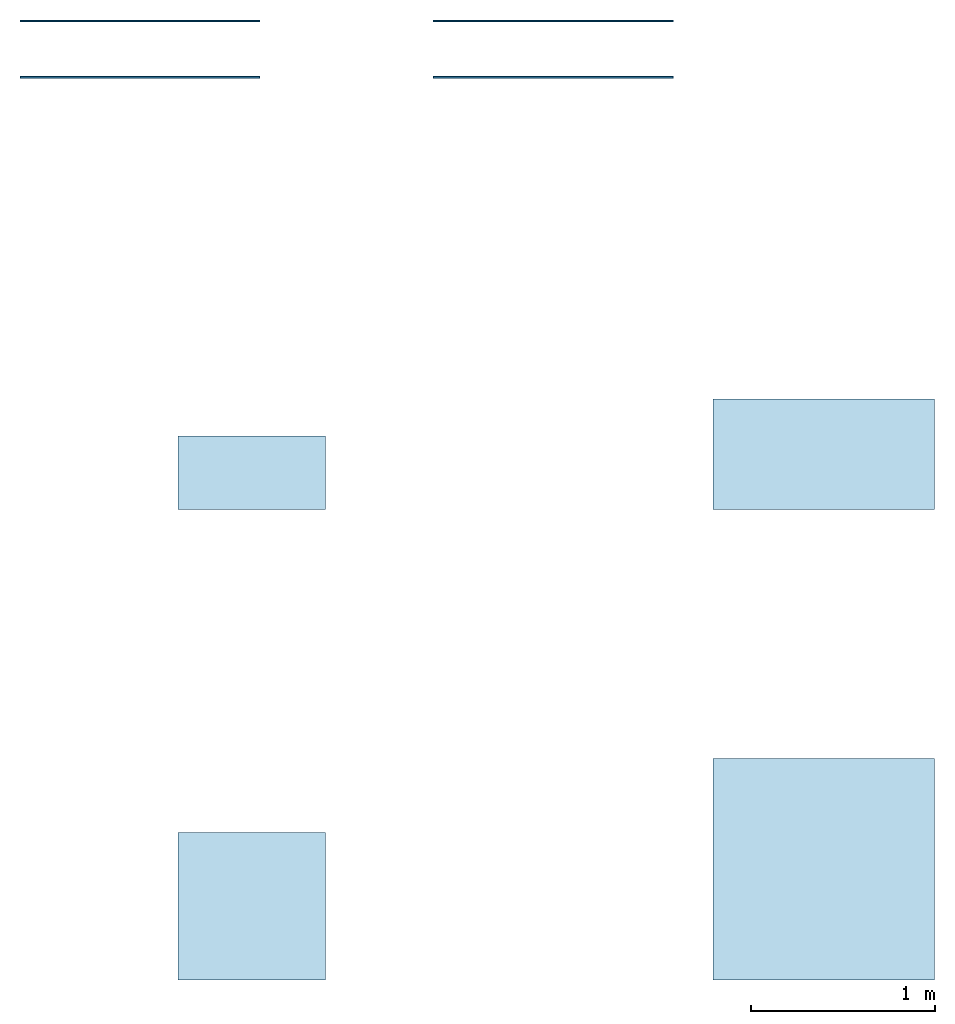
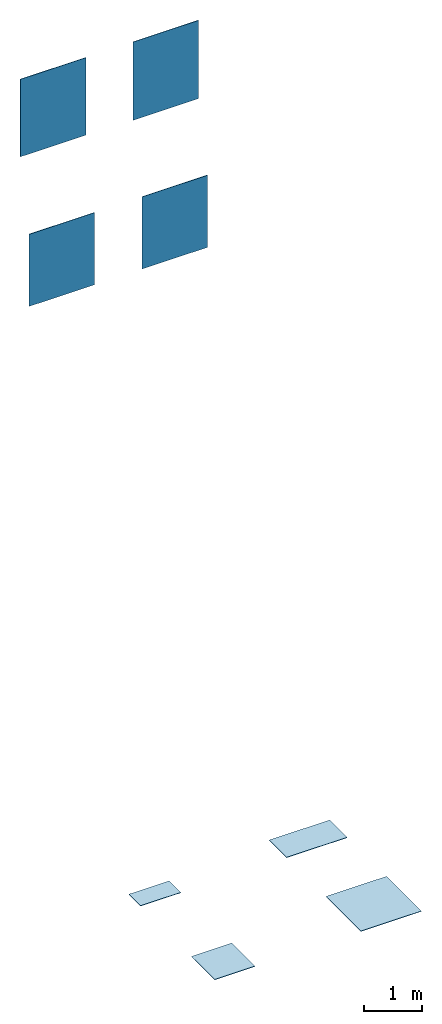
# One storey: 4 slabs, 4 walls.
"""IFC2X3 building model written with IfcOpenShell, lengths in millimetres."""

import ifcopenshell
import ifcopenshell.guid

model = None  # the IFC model being written
_history = None  # IfcOwnerHistory: only IFC2X3 demands one
_inside = {}  # id of a spatial element -> (the spatial element, [elements in it])
_under = {}  # id of a project, library or spatial element -> (it, [spatial elements below it])
_declared = {}  # id of a project -> (the project, [libraries it declares])
_typed = {}  # id of a type object -> (the type object, [elements of that type])
_made_of = {}  # id of a material, layer set ... -> (it, [elements and type objects made of it])


def new_model(schema):
    """Start an empty IFC model of exactly this schema.

    Asked for "IFC4X3", IfcOpenShell would pick the latest addendum, in which some entities
    have other attributes; the version numbers below select the first issue.
    IFC2X3 requires an IfcOwnerHistory on every rooted entity: one is made here for all.
    """
    global model, _history
    if schema == "IFC4X3":
        model = ifcopenshell.file(schema_version=(4, 3, 0, 0))
    else:
        model = ifcopenshell.file(schema=schema)
    _inside.clear()
    _under.clear()
    _declared.clear()
    _typed.clear()
    _made_of.clear()
    _history = None
    if model.schema == "IFC2X3":
        org = make("IfcOrganization", Name="unknown")
        user = make(
            "IfcPersonAndOrganization",
            ThePerson=make("IfcPerson", FamilyName="unknown"),
            TheOrganization=org,
        )
        app = make(
            "IfcApplication",
            ApplicationDeveloper=org,
            Version="unknown",
            ApplicationFullName="unknown",
            ApplicationIdentifier="unknown",
        )
        _history = make(
            "IfcOwnerHistory",
            OwningUser=user,
            OwningApplication=app,
            ChangeAction="ADDED",
            CreationDate=0,
        )
    return model


def make(cls, **values):
    """One entity of the class cls with the attributes given. An attribute that is None is left unset."""
    return model.create_entity(
        cls, **{name: value for name, value in values.items() if value is not None}
    )


def entity(cls, *values):
    """Any entity or typed value of the class cls, its attributes in the order of the schema. None: left unset."""
    e = model.create_entity(cls)
    for i, value in enumerate(values):
        if value is not None:
            e[i] = value
    return e


def rooted(cls, **values):
    """An entity with a GlobalId (a new one), such as an element, a storey or a relation."""
    return make(cls, GlobalId=ifcopenshell.guid.new(), OwnerHistory=_history, **values)


def si_unit(unit_type, name, prefix=None):
    """IfcSIUnit, for example si_unit("LENGTHUNIT", "METRE", prefix="MILLI")."""
    return make("IfcSIUnit", UnitType=unit_type, Prefix=prefix, Name=name)


def converted_unit(unit_type, name, factor, base, dimensions=None, offset=None):
    """IfcConversionBasedUnit, such as the inch: factor (a typed value) times the base unit."""
    return make(
        "IfcConversionBasedUnit"
        if offset is None
        else "IfcConversionBasedUnitWithOffset",
        ConversionOffset=offset,
        Dimensions=None
        if dimensions is None
        else entity("IfcDimensionalExponents", *dimensions),
        UnitType=unit_type,
        Name=name,
        ConversionFactor=make(
            "IfcMeasureWithUnit", ValueComponent=factor, UnitComponent=base
        ),
    )


def derived_unit(unit_type, elements):
    """IfcDerivedUnit: a product of units, each with its exponent."""
    return make(
        "IfcDerivedUnit",
        Elements=[
            make("IfcDerivedUnitElement", Unit=unit, Exponent=power)
            for unit, power in elements
        ],
        UnitType=unit_type,
    )


def assignment(units):
    """IfcUnitAssignment: the units of a project."""
    return None if units is None else make("IfcUnitAssignment", Units=units)


def point(xyz):
    """IfcCartesianPoint."""
    return None if xyz is None else make("IfcCartesianPoint", Coordinates=xyz)


def direction(xyz):
    """IfcDirection."""
    return None if xyz is None else make("IfcDirection", DirectionRatios=xyz)


def frame(location, z_axis=None, x_axis=None):
    """IfcAxis2Placement3D, a coordinate frame: its origin and axes. An axis left out is left unset."""
    return make(
        "IfcAxis2Placement3D",
        Location=point(location),
        Axis=direction(z_axis),
        RefDirection=direction(x_axis),
    )


def frame_2d(location, x_axis=None):
    """IfcAxis2Placement2D, a coordinate frame in the plane: its origin and x axis."""
    return make(
        "IfcAxis2Placement2D", Location=point(location), RefDirection=direction(x_axis)
    )


def origin():
    """The frame at (0, 0, 0) with its axes left unset."""
    return frame((0.0, 0.0, 0.0))


def origin_2d_with_axis():
    """The frame at (0, 0) in the plane with the x axis (1, 0) written out."""
    return frame_2d((0.0, 0.0), x_axis=(1.0, 0.0))


def place(relative_to, where):
    """IfcLocalPlacement: puts the frame where relative to a parent placement (None: the world)."""
    return make(
        "IfcLocalPlacement", PlacementRelTo=relative_to, RelativePlacement=where
    )


def context(
    kind, dimensions, precision=None, world=None, true_north=None, identifier=None
):
    """IfcGeometricRepresentationContext, for example the 3D "Model" context."""
    return make(
        "IfcGeometricRepresentationContext",
        ContextIdentifier=identifier,
        ContextType=kind,
        CoordinateSpaceDimension=dimensions,
        Precision=precision,
        WorldCoordinateSystem=world,
        TrueNorth=true_north,
    )


def subcontext(parent, identifier, kind, view, scale=None):
    """IfcGeometricRepresentationSubContext, for example "Body" below "Model"."""
    return make(
        "IfcGeometricRepresentationSubContext",
        ContextIdentifier=identifier,
        ContextType=kind,
        ParentContext=parent,
        TargetScale=scale,
        TargetView=view,
    )


def project(units=None, contexts=None):
    """IfcProject with its units and contexts."""
    return rooted(
        "IfcProject",
        Name="project",
        RepresentationContexts=contexts,
        UnitsInContext=assignment(units),
    )


def spatial(cls, under=None, at=None, **own):
    """A site, building, storey or space (cls), placed at a placement, below another one or the project."""
    s = rooted(cls, ObjectPlacement=at, **own)
    if under is not None:
        _under.setdefault(under.id(), (under, []))[1].append(s)
    return s


def profile(cls, at=None, kind="AREA", **sizes):
    """A parametric profile (cls). Its sizes go by their IFC names, for example OverallWidth=200.0."""
    return make(cls, ProfileType=kind, Position=at, **sizes)


def rectangle(**sizes):
    """IfcRectangleProfileDef."""
    return profile("IfcRectangleProfileDef", **sizes)


def extrude(swept, where, along, depth):
    """IfcExtrudedAreaSolid: the profile swept, set in the frame where, extruded along a direction by depth."""
    return make(
        "IfcExtrudedAreaSolid",
        SweptArea=swept,
        Position=where,
        ExtrudedDirection=direction(along),
        Depth=depth,
    )


def shape(context_of_items, identifier, shape_type, items):
    """IfcShapeRepresentation: the items that make up one representation, for example the "Body"."""
    return make(
        "IfcShapeRepresentation",
        ContextOfItems=context_of_items,
        RepresentationIdentifier=identifier,
        RepresentationType=shape_type,
        Items=items,
    )


def material(Name=None, Category=None):
    """IfcMaterial."""
    return make("IfcMaterial", Name=Name, Category=Category)


def layer(
    of_material, thickness, ventilated=None, Name=None, Category=None, Priority=None
):
    """IfcMaterialLayer: one layer of a wall or slab, of a material (None: an air gap)."""
    return make(
        "IfcMaterialLayer",
        Material=of_material,
        LayerThickness=thickness,
        IsVentilated=ventilated,
        Name=Name,
        Category=Category,
        Priority=Priority,
    )


def layer_set(layers, Name=None):
    """IfcMaterialLayerSet."""
    return make("IfcMaterialLayerSet", MaterialLayers=layers, LayerSetName=Name)


def layer_usage(for_layer_set, set_direction, sense, offset, extent=None):
    """IfcMaterialLayerSetUsage: how a layer set lies in its element."""
    return make(
        "IfcMaterialLayerSetUsage",
        ForLayerSet=for_layer_set,
        LayerSetDirection=set_direction,
        DirectionSense=sense,
        OffsetFromReferenceLine=offset,
        ReferenceExtent=extent,
    )


def made_of(thing, what):
    """Note that an element or type object is made of a material, layer set ...; save() writes the relation."""
    if what is not None:
        _made_of.setdefault(what.id(), (what, []))[1].append(thing)
    return thing


def type_object(cls, material=None, **own):
    """A type object (cls), such as IfcWallType, which elements share."""
    return made_of(rooted(cls, **own), material)


def element(
    cls,
    number,
    at=None,
    inside=None,
    cuts=None,
    type_object=None,
    material=None,
    context=None,
    identifier="Body",
    shape_type=None,
    held_by="IfcProductDefinitionShape",
    body=None,
    shapes=None,
    **own,
):
    """One element of the class cls, such as IfcWall. Its Tag is "e" and its number.

    at: its placement. inside: the storey or other place that contains it. cuts: it is an
    opening in that element (IfcRelVoidsElement). A single representation is given by context,
    identifier, shape_type and body (its items); several are given by shapes. held_by: the class
    of the entity that holds the representations. save() writes the other relations.
    """
    e = rooted(cls, Tag="e%d" % number, ObjectPlacement=at, **own)
    if body is not None:
        shapes = [shape(context, identifier, shape_type, body)]
    if shapes is not None:
        e.Representation = make(held_by, Representations=shapes)
    if inside is not None:
        _inside.setdefault(inside.id(), (inside, []))[1].append(e)
    if cuts is not None:
        rooted(
            "IfcRelVoidsElement", RelatingBuildingElement=cuts, RelatedOpeningElement=e
        )
    if type_object is not None:
        _typed.setdefault(type_object.id(), (type_object, []))[1].append(e)
    return made_of(e, material)


def aggregate(whole, parts):
    """IfcRelAggregates: a whole, such as a stair, and the parts it consists of."""
    return rooted("IfcRelAggregates", RelatingObject=whole, RelatedObjects=parts)


def save(model, path):
    """Write the relations noted so far, then the file.

    IfcRelAggregates (storeys below a building ...), IfcRelContainedInSpatialStructure (elements
    in a storey), IfcRelDefinesByType, IfcRelAssociatesMaterial and IfcRelDeclares: one each for
    every whole, place, type object, material and project.
    """
    for whole, parts in _under.values():
        aggregate(whole, parts)
    for where, things in _inside.values():
        rooted(
            "IfcRelContainedInSpatialStructure",
            RelatedElements=things,
            RelatingStructure=where,
        )
    for kind, things in _typed.values():
        rooted("IfcRelDefinesByType", RelatedObjects=things, RelatingType=kind)
    for what, things in _made_of.values():
        rooted("IfcRelAssociatesMaterial", RelatedObjects=things, RelatingMaterial=what)
    for by, libraries in _declared.values():
        rooted("IfcRelDeclares", RelatingContext=by, RelatedDefinitions=libraries)
    model.write(path)


model = new_model("IFC2X3")

# Units and contexts
model_context = context("Model", 3, precision=0.01, world=origin(), true_north=direction((6.12303176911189e-17, 1.0)))
body_context = subcontext(model_context, "Body", "Model", "MODEL_VIEW")
ifc_project = project(units=[si_unit("LENGTHUNIT", "METRE", prefix="MILLI"), si_unit("AREAUNIT", "SQUARE_METRE"), si_unit("VOLUMEUNIT", "CUBIC_METRE"), converted_unit("PLANEANGLEUNIT", "DEGREE", entity("IfcRatioMeasure", 0.0174532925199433), si_unit("PLANEANGLEUNIT", "RADIAN"), dimensions=[0, 0, 0, 0, 0, 0, 0]), si_unit("MASSUNIT", "GRAM", prefix="KILO"), derived_unit("MASSDENSITYUNIT", [(si_unit("MASSUNIT", "GRAM", prefix="KILO"), 1), (si_unit("LENGTHUNIT", "METRE"), -3)]), derived_unit("MOMENTOFINERTIAUNIT", [(si_unit("LENGTHUNIT", "METRE"), 4)]), si_unit("TIMEUNIT", "SECOND"), si_unit("FREQUENCYUNIT", "HERTZ"), si_unit("THERMODYNAMICTEMPERATUREUNIT", "DEGREE_CELSIUS"), derived_unit("THERMALTRANSMITTANCEUNIT", [(si_unit("MASSUNIT", "GRAM", prefix="KILO"), 1), (si_unit("THERMODYNAMICTEMPERATUREUNIT", "KELVIN"), -1), (si_unit("TIMEUNIT", "SECOND"), -3)]), derived_unit("VOLUMETRICFLOWRATEUNIT", [(si_unit("LENGTHUNIT", "METRE"), 3), (si_unit("TIMEUNIT", "SECOND"), -1)]), si_unit("ELECTRICCURRENTUNIT", "AMPERE"), si_unit("ELECTRICVOLTAGEUNIT", "VOLT"), si_unit("POWERUNIT", "WATT"), si_unit("FORCEUNIT", "NEWTON", prefix="KILO"), si_unit("ILLUMINANCEUNIT", "LUX"), si_unit("LUMINOUSFLUXUNIT", "LUMEN"), si_unit("LUMINOUSINTENSITYUNIT", "CANDELA"), derived_unit("USERDEFINED", [(si_unit("MASSUNIT", "GRAM", prefix="KILO"), -1), (si_unit("LENGTHUNIT", "METRE"), -2), (si_unit("TIMEUNIT", "SECOND"), 3), (si_unit("LUMINOUSFLUXUNIT", "LUMEN"), 1)]), derived_unit("LINEARVELOCITYUNIT", [(si_unit("LENGTHUNIT", "METRE"), 1), (si_unit("TIMEUNIT", "SECOND"), -1)]), si_unit("PRESSUREUNIT", "PASCAL"), derived_unit("USERDEFINED", [(si_unit("LENGTHUNIT", "METRE"), -2), (si_unit("MASSUNIT", "GRAM", prefix="KILO"), 1), (si_unit("TIMEUNIT", "SECOND"), -2)]), derived_unit("LINEARFORCEUNIT", [(si_unit("MASSUNIT", "GRAM", prefix="KILO"), 1), (si_unit("LENGTHUNIT", "METRE"), 1), (si_unit("TIMEUNIT", "SECOND"), -2), (si_unit("LENGTHUNIT", "METRE"), -1)]), derived_unit("PLANARFORCEUNIT", [(si_unit("MASSUNIT", "GRAM", prefix="KILO"), 1), (si_unit("LENGTHUNIT", "METRE"), 1), (si_unit("TIMEUNIT", "SECOND"), -2), (si_unit("LENGTHUNIT", "METRE"), -2)])], contexts=[model_context])

# Site, building, storey
site_placement = place(None, origin())
site = spatial("IfcSite", under=ifc_project, at=site_placement, Name="Default", CompositionType="ELEMENT")
building_placement = place(site_placement, origin())
building = spatial("IfcBuilding", under=site, at=building_placement, CompositionType="ELEMENT")
storey_placement = place(building_placement, origin())
storey = spatial("IfcBuildingStorey", under=building, at=storey_placement, Name="Level 0", CompositionType="ELEMENT", Elevation=0.0)

# Slabs
ifc_material_1 = material(Name="Affrescati-Ocra-40x80 OI68")
ifc_layer_1 = layer(ifc_material_1, 9.0)
ifc_material_2 = material(Name="<Unnamed>")
ifc_layer_2 = layer(ifc_material_2, 1.0)
ifc_layer_set_1 = layer_set([ifc_layer_1, ifc_layer_2], Name="Floor:Floor_Tiles_Refin-Affrescati-Ocra-40x80 OI68")
ifc_layer_usage_1 = layer_usage(ifc_layer_set_1, "AXIS3", "POSITIVE", 0.0)
slab_type_1 = type_object("IfcSlabType", Name="Floor:Floor_Tiles_Refin-Affrescati-Ocra-40x80 OI68", PredefinedType="FLOOR", material=ifc_layer_set_1)
slab_1_placement = place(storey_placement, origin())
element("IfcSlab", 1, at=slab_1_placement, inside=storey, type_object=slab_type_1, material=ifc_layer_usage_1, Name="Floor:Floor_Tiles_Refin-Affrescati-Ocra-40x80 OI68", ObjectType="Floor:Floor_Tiles_Refin-Affrescati-Ocra-40x80 OI68", PredefinedType="FLOOR", context=body_context, shape_type="SweptSolid", body=[
    extrude(rectangle(XDim=400.0, YDim=800.0, at=origin_2d_with_axis()), frame((7174.37520617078, 5688.41920639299, 0.0), z_axis=(0.0, 0.0, -1.0), x_axis=(0.0, 1.0, 0.0)), (0.0, 0.0, 1.0), 10.0),
])
ifc_material_3 = material(Name="Affrescati-Ocra-60x120 OH03")
ifc_layer_3 = layer(ifc_material_3, 9.0)
ifc_layer_4 = layer(ifc_material_2, 1.0)
ifc_layer_set_2 = layer_set([ifc_layer_3, ifc_layer_4], Name="Floor:Floor_Tiles_Refin-Affrescati-Ocra-60x120 OH03")
ifc_layer_usage_2 = layer_usage(ifc_layer_set_2, "AXIS3", "POSITIVE", 0.0)
slab_type_2 = type_object("IfcSlabType", Name="Floor:Floor_Tiles_Refin-Affrescati-Ocra-60x120 OH03", PredefinedType="FLOOR", material=ifc_layer_set_2)
slab_2_placement = place(storey_placement, origin())
element("IfcSlab", 2, at=slab_2_placement, inside=storey, type_object=slab_type_2, material=ifc_layer_usage_2, Name="Floor:Floor_Tiles_Refin-Affrescati-Ocra-60x120 OH03", ObjectType="Floor:Floor_Tiles_Refin-Affrescati-Ocra-60x120 OH03", PredefinedType="FLOOR", context=body_context, shape_type="SweptSolid", body=[
    extrude(rectangle(XDim=600.0, YDim=1200.0, at=origin_2d_with_axis()), frame((10274.3752061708, 5788.41920639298, 0.0), z_axis=(0.0, 0.0, -1.0), x_axis=(0.0, 1.0, 0.0)), (0.0, 0.0, 1.0), 10.0),
])
ifc_material_4 = material(Name="Affrescati-Ocra-80x80 OI00")
ifc_layer_5 = layer(ifc_material_4, 9.0)
ifc_layer_6 = layer(ifc_material_2, 1.0)
ifc_layer_set_3 = layer_set([ifc_layer_5, ifc_layer_6], Name="Floor:Floor_Tiles_Refin-Affrescati-Ocra-80x80 OI00")
ifc_layer_usage_3 = layer_usage(ifc_layer_set_3, "AXIS3", "POSITIVE", 0.0)
slab_type_3 = type_object("IfcSlabType", Name="Floor:Floor_Tiles_Refin-Affrescati-Ocra-80x80 OI00", PredefinedType="FLOOR", material=ifc_layer_set_3)
slab_3_placement = place(storey_placement, origin())
element("IfcSlab", 3, at=slab_3_placement, inside=storey, type_object=slab_type_3, material=ifc_layer_usage_3, Name="Floor:Floor_Tiles_Refin-Affrescati-Ocra-80x80 OI00", ObjectType="Floor:Floor_Tiles_Refin-Affrescati-Ocra-80x80 OI00", PredefinedType="FLOOR", context=body_context, shape_type="SweptSolid", body=[
    extrude(rectangle(XDim=800.0, YDim=800.0, at=origin_2d_with_axis()), frame((7174.37520617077, 3338.41920639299, 0.0), z_axis=(0.0, 0.0, -1.0), x_axis=(0.0, 1.0, 0.0)), (0.0, 0.0, 1.0), 10.0),
])
ifc_material_5 = material(Name="Affrescati-Ocra-120x120 OG67")
ifc_layer_7 = layer(ifc_material_5, 9.0)
ifc_layer_8 = layer(ifc_material_2, 1.0)
ifc_layer_set_4 = layer_set([ifc_layer_7, ifc_layer_8], Name="Floor:Floor_Tiles_Refin-Affrescati-Ocra-120x120 OG67")
ifc_layer_usage_4 = layer_usage(ifc_layer_set_4, "AXIS3", "POSITIVE", 0.0)
slab_type_4 = type_object("IfcSlabType", Name="Floor:Floor_Tiles_Refin-Affrescati-Ocra-120x120 OG67", PredefinedType="FLOOR", material=ifc_layer_set_4)
slab_4_placement = place(storey_placement, origin())
element("IfcSlab", 4, at=slab_4_placement, inside=storey, type_object=slab_type_4, material=ifc_layer_usage_4, Name="Floor:Floor_Tiles_Refin-Affrescati-Ocra-120x120 OG67", ObjectType="Floor:Floor_Tiles_Refin-Affrescati-Ocra-120x120 OG67", PredefinedType="FLOOR", context=body_context, shape_type="SweptSolid", body=[
    extrude(rectangle(XDim=1200.0, YDim=1200.0, at=origin_2d_with_axis()), frame((10274.3752061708, 3538.41920639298, 0.0), z_axis=(0.0, 0.0, -1.0), x_axis=(0.0, 1.0, 0.0)), (0.0, 0.0, 1.0), 10.0),
])

# Walls
ifc_layer_9 = layer(ifc_material_2, 1.0)
ifc_layer_10 = layer(ifc_material_3, 9.0)
ifc_layer_set_5 = layer_set([ifc_layer_9, ifc_layer_10], Name="Basic Wall:Wall_Tiles_Refin-Affrescati-Ocra-60x120 OH03")
ifc_layer_usage_5 = layer_usage(ifc_layer_set_5, "AXIS2", "NEGATIVE", 5.0)
wall_type_1 = type_object("IfcWallType", Name="Basic Wall:Wall_Tiles_Refin-Affrescati-Ocra-60x120 OH03", PredefinedType="STANDARD", material=ifc_layer_set_5)
wall_1_placement = place(storey_placement, frame((8157.37520617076, 8137.38386313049, 14387.6770443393)))
element("IfcWallStandardCase", 5, at=wall_1_placement, inside=storey, type_object=wall_type_1, material=ifc_layer_usage_5, Name="Basic Wall:Wall_Tiles_Refin-Affrescati-Ocra-60x120 OH03", ObjectType="Basic Wall:Wall_Tiles_Refin-Affrescati-Ocra-60x120 OH03", context=body_context, shape_type="SweptSolid", body=[
    extrude(rectangle(XDim=1300.0, YDim=9.99999999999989, at=frame_2d((650.0, 7.63833440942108e-14), x_axis=(-1.0, 0.0))), origin(), (0.0, 0.0, 1.0), 1641.74173522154),
])
ifc_layer_11 = layer(ifc_material_2, 1.0)
ifc_layer_12 = layer(ifc_material_1, 9.0)
ifc_layer_set_6 = layer_set([ifc_layer_11, ifc_layer_12], Name="Basic Wall:Wall_Tiles_Refin-Affrescati-Ocra-40x80 OI68")
ifc_layer_usage_6 = layer_usage(ifc_layer_set_6, "AXIS2", "NEGATIVE", 5.0)
wall_type_2 = type_object("IfcWallType", Name="Basic Wall:Wall_Tiles_Refin-Affrescati-Ocra-40x80 OI68", PredefinedType="STANDARD", material=ifc_layer_set_6)
wall_2_placement = place(storey_placement, frame((5917.37520617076, 8137.38386313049, 14403.726734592)))
element("IfcWallStandardCase", 6, at=wall_2_placement, inside=storey, type_object=wall_type_2, material=ifc_layer_usage_6, Name="Basic Wall:Wall_Tiles_Refin-Affrescati-Ocra-40x80 OI68", ObjectType="Basic Wall:Wall_Tiles_Refin-Affrescati-Ocra-40x80 OI68", context=body_context, shape_type="SweptSolid", body=[
    extrude(rectangle(XDim=1300.0, YDim=9.99999999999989, at=frame_2d((650.0, 7.63833440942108e-14), x_axis=(-1.0, 0.0))), origin(), (0.0, 0.0, 1.0), 1625.69204496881),
])
ifc_layer_13 = layer(ifc_material_2, 1.0)
ifc_layer_14 = layer(ifc_material_4, 9.0)
ifc_layer_set_7 = layer_set([ifc_layer_13, ifc_layer_14], Name="Basic Wall:Wall_Tiles_Refin-Affrescati-Ocra-80x80 OI00")
ifc_layer_usage_7 = layer_usage(ifc_layer_set_7, "AXIS2", "NEGATIVE", 5.0)
wall_type_3 = type_object("IfcWallType", Name="Basic Wall:Wall_Tiles_Refin-Affrescati-Ocra-80x80 OI00", PredefinedType="STANDARD", material=ifc_layer_set_7)
wall_3_placement = place(storey_placement, frame((5917.37520617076, 7832.38386313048, 11452.5436262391)))
element("IfcWallStandardCase", 7, at=wall_3_placement, inside=storey, type_object=wall_type_3, material=ifc_layer_usage_7, Name="Basic Wall:Wall_Tiles_Refin-Affrescati-Ocra-80x80 OI00", ObjectType="Basic Wall:Wall_Tiles_Refin-Affrescati-Ocra-80x80 OI00", context=body_context, shape_type="SweptSolid", body=[
    extrude(rectangle(XDim=1300.0, YDim=9.99999999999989, at=frame_2d((650.0, 0.0), x_axis=(-1.0, 0.0))), origin(), (0.0, 0.0, 1.0), 1513.19855655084),
])
ifc_layer_15 = layer(ifc_material_2, 1.0)
ifc_layer_16 = layer(ifc_material_5, 9.0)
ifc_layer_set_8 = layer_set([ifc_layer_15, ifc_layer_16], Name="Basic Wall:Wall_Tiles_Refin-Affrescati-Ocra-120x120 OG67")
ifc_layer_usage_8 = layer_usage(ifc_layer_set_8, "AXIS2", "NEGATIVE", 5.0)
wall_type_4 = type_object("IfcWallType", Name="Basic Wall:Wall_Tiles_Refin-Affrescati-Ocra-120x120 OG67", PredefinedType="STANDARD", material=ifc_layer_set_8)
wall_4_placement = place(storey_placement, frame((8157.37520617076, 7832.38386313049, 11452.5436262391)))
element("IfcWallStandardCase", 8, at=wall_4_placement, inside=storey, type_object=wall_type_4, material=ifc_layer_usage_8, Name="Basic Wall:Wall_Tiles_Refin-Affrescati-Ocra-120x120 OG67", ObjectType="Basic Wall:Wall_Tiles_Refin-Affrescati-Ocra-120x120 OG67", context=body_context, shape_type="SweptSolid", body=[
    extrude(rectangle(XDim=1300.0, YDim=9.99999999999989, at=frame_2d((650.0, 0.0), x_axis=(-1.0, 0.0))), origin(), (0.0, 0.0, 1.0), 1513.19855655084),
])

save(model, "model.ifc")
